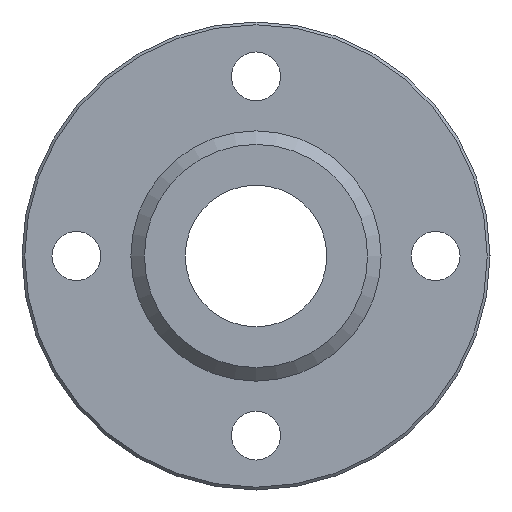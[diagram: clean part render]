
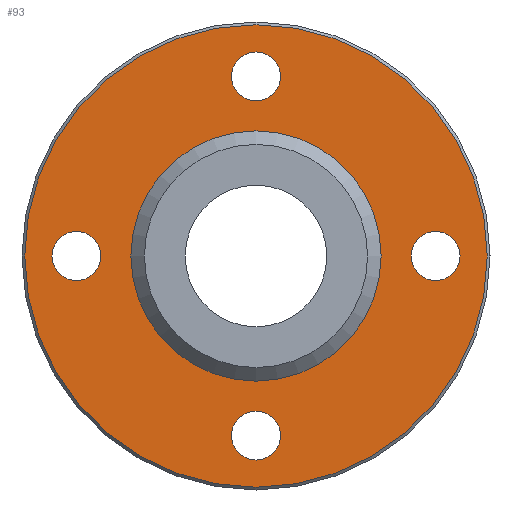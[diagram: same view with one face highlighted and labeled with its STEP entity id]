
A CAD part, left-side view. The second image highlights one B-rep face of the part: STEP entity #93.
In plain terms, the highlighted planar face has unit normal (-1, 0, 0).
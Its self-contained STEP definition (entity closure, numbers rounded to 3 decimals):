
#93=ADVANCED_FACE('',(#155,#156,#157,#158,#159,#160),#161,.F.);
#155=FACE_OUTER_BOUND('',#226,.T.);
#156=FACE_BOUND('',#227,.T.);
#157=FACE_BOUND('',#228,.T.);
#158=FACE_BOUND('',#229,.T.);
#159=FACE_BOUND('',#230,.T.);
#160=FACE_BOUND('',#231,.T.);
#161=PLANE('',#232);
#226=EDGE_LOOP('',(#333));
#227=EDGE_LOOP('',(#334));
#228=EDGE_LOOP('',(#335));
#229=EDGE_LOOP('',(#336));
#230=EDGE_LOOP('',(#337));
#231=EDGE_LOOP('',(#338));
#232=AXIS2_PLACEMENT_3D('',#339,#340,#341);
#333=ORIENTED_EDGE('',*,*,#354,.F.);
#334=ORIENTED_EDGE('',*,*,#365,.T.);
#335=ORIENTED_EDGE('',*,*,#367,.T.);
#336=ORIENTED_EDGE('',*,*,#369,.T.);
#337=ORIENTED_EDGE('',*,*,#371,.T.);
#338=ORIENTED_EDGE('',*,*,#362,.T.);
#339=CARTESIAN_POINT('',(-9.0,11.5,0.0));
#340=DIRECTION('',(1.0,0.0,0.0));
#341=DIRECTION('',(0.0,0.0,-1.0));
#354=EDGE_CURVE('',#381,#381,#382,.T.);
#362=EDGE_CURVE('',#397,#397,#398,.T.);
#365=EDGE_CURVE('',#403,#403,#404,.T.);
#367=EDGE_CURVE('',#407,#407,#408,.T.);
#369=EDGE_CURVE('',#411,#411,#412,.T.);
#371=EDGE_CURVE('',#415,#415,#416,.T.);
#381=VERTEX_POINT('',#431);
#382=CIRCLE('',#432,21.246);
#397=VERTEX_POINT('',#447);
#398=CIRCLE('',#448,11.5);
#403=VERTEX_POINT('',#453);
#404=CIRCLE('',#454,2.25);
#407=VERTEX_POINT('',#457);
#408=CIRCLE('',#458,2.25);
#411=VERTEX_POINT('',#461);
#412=CIRCLE('',#462,2.25);
#415=VERTEX_POINT('',#465);
#416=CIRCLE('',#466,2.25);
#431=CARTESIAN_POINT('',(-9.0,0.0,-21.246));
#432=AXIS2_PLACEMENT_3D('',#483,#484,#485);
#447=CARTESIAN_POINT('',(-9.0,0.0,-11.5));
#448=AXIS2_PLACEMENT_3D('',#507,#508,#509);
#453=CARTESIAN_POINT('',(-9.0,0.0,14.25));
#454=AXIS2_PLACEMENT_3D('',#516,#517,#518);
#457=CARTESIAN_POINT('',(-9.0,0.0,-18.75));
#458=AXIS2_PLACEMENT_3D('',#522,#523,#524);
#461=CARTESIAN_POINT('',(-9.0,16.5,-2.25));
#462=AXIS2_PLACEMENT_3D('',#528,#529,#530);
#465=CARTESIAN_POINT('',(-9.0,-16.5,-2.25));
#466=AXIS2_PLACEMENT_3D('',#534,#535,#536);
#483=CARTESIAN_POINT('',(-9.0,0.0,0.0));
#484=DIRECTION('',(1.0,0.0,0.0));
#485=DIRECTION('',(0.0,0.0,-1.0));
#507=CARTESIAN_POINT('',(-9.0,0.0,0.0));
#508=DIRECTION('',(1.0,0.0,0.0));
#509=DIRECTION('',(0.0,0.0,-1.0));
#516=CARTESIAN_POINT('',(-9.0,0.0,16.5));
#517=DIRECTION('',(1.0,0.0,0.0));
#518=DIRECTION('',(0.0,0.0,-1.0));
#522=CARTESIAN_POINT('',(-9.0,0.0,-16.5));
#523=DIRECTION('',(1.0,0.0,0.0));
#524=DIRECTION('',(0.0,0.0,-1.0));
#528=CARTESIAN_POINT('',(-9.0,16.5,0.0));
#529=DIRECTION('',(1.0,0.0,0.0));
#530=DIRECTION('',(0.0,0.0,-1.0));
#534=CARTESIAN_POINT('',(-9.0,-16.5,0.0));
#535=DIRECTION('',(1.0,0.0,0.0));
#536=DIRECTION('',(0.0,0.0,-1.0));
